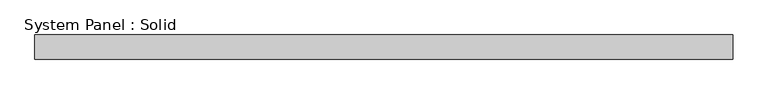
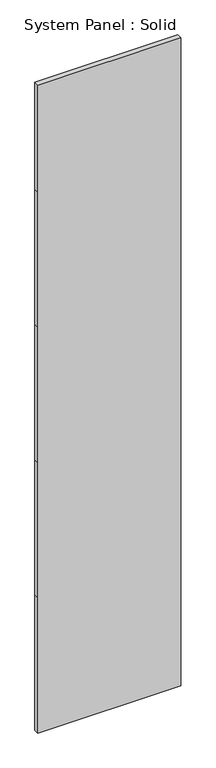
"""IFC4 building model written with IfcOpenShell, lengths in millimetres: plate geometry, System Panel : Solid."""

from ifc_helpers import new_model, si_unit, frame, origin, place, context, project, spatial, polyline, outline, extrude, source, transform, mapped, element, save


def system_panel_solid_23e9a8e2(model_context):
    return source(origin(), model_context, "Body", "SweptSolid", [
        extrude(outline(polyline([(0.0, -500.0), (0.0, 500.0), (1000.0, 500.0), (2000.0, 500.0), (3000.0, 500.0), (4000.0, 500.0), (4790.0, 500.0), (4790.0, -500.0), (4000.0, -500.0), (3000.0, -500.0), (2000.0, -500.0), (1000.0, -500.0), (0.0, -500.0)])), frame((0.0, -2.5, 0.0), z_axis=(0.0, 1.0, 0.0), x_axis=(0.0, 0.0, 1.0)), (0.0, 0.0, 1.0), 35.0),
    ])


if __name__ == "__main__":
    model = new_model("IFC4")
    model_context = context("Model", 3, world=origin())
    ifc_project = project(units=[si_unit("LENGTHUNIT", "METRE", prefix="MILLI")], contexts=[model_context])
    site = spatial("IfcSite", under=ifc_project)
    building = spatial("IfcBuilding", under=site)
    placement = place(None, origin())
    system_panel_solid_shape = system_panel_solid_23e9a8e2(model_context)
    element("IfcPlate", 1, ObjectType="System Panel : Solid", at=placement, inside=building, context=model_context, shape_type="MappedRepresentation", body=[
        mapped(system_panel_solid_shape, transform((0.0, 0.0, 0.0), x_axis=(1.0, 0.0, 0.0), y_axis=(0.0, 1.0, 0.0), z_axis=(0.0, 0.0, 1.0))),
    ])
    save(model, "model.ifc")
